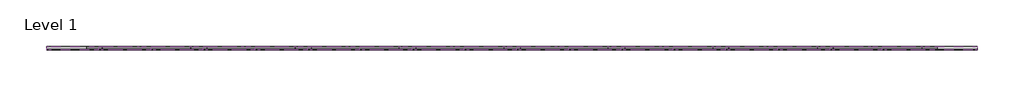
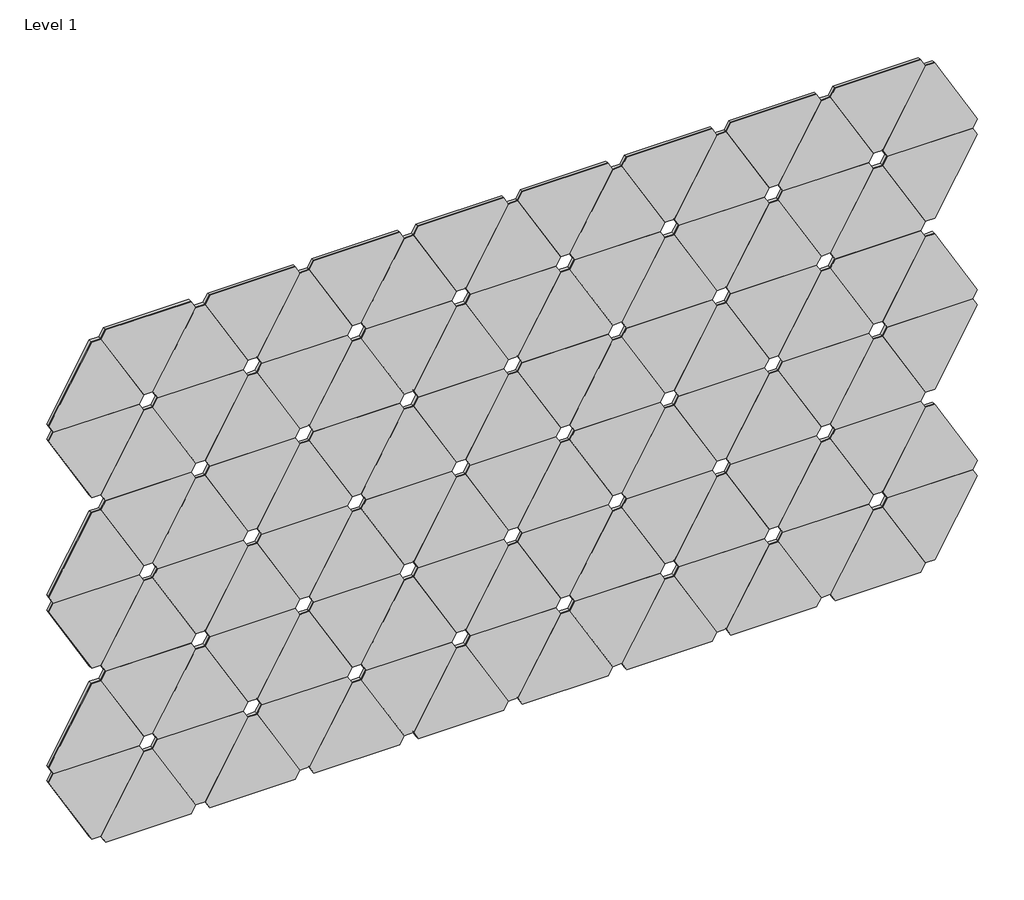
# One storey: 102 proxies.
"""IFC4 building model written with IfcOpenShell, lengths in millimetres."""

from ifc_helpers import new_model, si_unit, origin, place, context, project, spatial, transform, mapped, element, save
from components import aro_block_1_febfece8

model = new_model("IFC4")

# Units and contexts
model_context = context("Model", 3, world=origin())
ifc_project = project(units=[si_unit("LENGTHUNIT", "METRE", prefix="MILLI")], contexts=[model_context])

# Site, building, storey
site = spatial("IfcSite", under=ifc_project)
building = spatial("IfcBuilding", under=site)
storey = spatial("IfcBuildingStorey", under=building, Name="Level 1", Elevation=0.0)

# Proxies
placement = place(None, origin())
aro_block_1_shape = aro_block_1_febfece8(model_context)
element("IfcBuildingElementProxy", 1, Name="FilzFelt_ARO_Block 1 : ARO Block 1", ObjectType="FilzFelt_ARO_Block 1 : ARO Block 1", at=placement, inside=storey, context=model_context, shape_type="MappedRepresentation", body=[
    mapped(aro_block_1_shape, transform((-13829.1652095, 3946.8352795, 1042.1905508), x_axis=(1.0, 0.0, 0.0), y_axis=(0.0, 0.0, 1.0), z_axis=(0.0, -1.0, 0.0))),
])
element("IfcBuildingElementProxy", 2, Name="FilzFelt_ARO_Block 1 : ARO Block 1", ObjectType="FilzFelt_ARO_Block 1 : ARO Block 1", at=placement, inside=storey, context=model_context, shape_type="MappedRepresentation", body=[
    mapped(aro_block_1_shape, transform((-13473.5652095, 3946.8352795, 1042.1905508), x_axis=(1.0, 0.0, 0.0), y_axis=(0.0, 0.0, 1.0), z_axis=(0.0, -1.0, 0.0))),
])
element("IfcBuildingElementProxy", 3, Name="FilzFelt_ARO_Block 1 : ARO Block 1", ObjectType="FilzFelt_ARO_Block 1 : ARO Block 1", at=placement, inside=storey, context=model_context, shape_type="MappedRepresentation", body=[
    mapped(aro_block_1_shape, transform((-13651.3652095, 3946.8352795, 734.2319173), x_axis=(1.0, 0.0, 0.0), y_axis=(0.0, 0.0, 1.0), z_axis=(0.0, -1.0, 0.0))),
])
element("IfcBuildingElementProxy", 4, Name="FilzFelt_ARO_Block 1 : ARO Block 1", ObjectType="FilzFelt_ARO_Block 1 : ARO Block 1", at=placement, inside=storey, context=model_context, shape_type="MappedRepresentation", body=[
    mapped(aro_block_1_shape, transform((-13829.1652095, 3946.8352795, 1658.107818), x_axis=(1.0, 0.0, 0.0), y_axis=(0.0, 0.0, 1.0), z_axis=(0.0, -1.0, 0.0))),
])
element("IfcBuildingElementProxy", 5, Name="FilzFelt_ARO_Block 1 : ARO Block 1", ObjectType="FilzFelt_ARO_Block 1 : ARO Block 1", at=placement, inside=storey, context=model_context, shape_type="MappedRepresentation", body=[
    mapped(aro_block_1_shape, transform((-13651.3652095, 3946.8352795, 1760.7606959), x_axis=(-1.0, 0.0, 0.0), y_axis=(0.0, 0.0, -1.0), z_axis=(0.0, -1.0, 0.0))),
])
element("IfcBuildingElementProxy", 6, Name="FilzFelt_ARO_Block 1 : ARO Block 1", ObjectType="FilzFelt_ARO_Block 1 : ARO Block 1", at=placement, inside=storey, context=model_context, shape_type="MappedRepresentation", body=[
    mapped(aro_block_1_shape, transform((-13473.5652095, 3946.8352795, 1452.8020623), x_axis=(-1.0, 0.0, 0.0), y_axis=(0.0, 0.0, -1.0), z_axis=(0.0, -1.0, 0.0))),
])
element("IfcBuildingElementProxy", 7, Name="FilzFelt_ARO_Block 1 : ARO Block 1", ObjectType="FilzFelt_ARO_Block 1 : ARO Block 1", at=placement, inside=storey, context=model_context, shape_type="MappedRepresentation", body=[
    mapped(aro_block_1_shape, transform((-13651.3652095, 3946.8352795, 1350.1491844), x_axis=(1.0, 0.0, 0.0), y_axis=(0.0, 0.0, 1.0), z_axis=(0.0, -1.0, 0.0))),
])
element("IfcBuildingElementProxy", 8, Name="FilzFelt_ARO_Block 1 : ARO Block 1", ObjectType="FilzFelt_ARO_Block 1 : ARO Block 1", at=placement, inside=storey, context=model_context, shape_type="MappedRepresentation", body=[
    mapped(aro_block_1_shape, transform((-13651.3652095, 3946.8352795, 2376.6779631), x_axis=(-1.0, 0.0, 0.0), y_axis=(0.0, 0.0, -1.0), z_axis=(0.0, -1.0, 0.0))),
])
element("IfcBuildingElementProxy", 9, Name="FilzFelt_ARO_Block 1 : ARO Block 1", ObjectType="FilzFelt_ARO_Block 1 : ARO Block 1", at=placement, inside=storey, context=model_context, shape_type="MappedRepresentation", body=[
    mapped(aro_block_1_shape, transform((-13829.1652095, 3946.8352795, 2068.7193295), x_axis=(-1.0, 0.0, 0.0), y_axis=(0.0, 0.0, -1.0), z_axis=(0.0, -1.0, 0.0))),
])
element("IfcBuildingElementProxy", 10, Name="FilzFelt_ARO_Block 1 : ARO Block 1", ObjectType="FilzFelt_ARO_Block 1 : ARO Block 1", at=placement, inside=storey, context=model_context, shape_type="MappedRepresentation", body=[
    mapped(aro_block_1_shape, transform((-13473.5652095, 3946.8352795, 2068.7193295), x_axis=(-1.0, 0.0, 0.0), y_axis=(0.0, 0.0, -1.0), z_axis=(0.0, -1.0, 0.0))),
])
element("IfcBuildingElementProxy", 11, Name="FilzFelt_ARO_Block 1 : ARO Block 1", ObjectType="FilzFelt_ARO_Block 1 : ARO Block 1", at=placement, inside=storey, context=model_context, shape_type="MappedRepresentation", body=[
    mapped(aro_block_1_shape, transform((-13295.7652095, 3946.8352795, 1966.0664516), x_axis=(1.0, 0.0, 0.0), y_axis=(0.0, 0.0, 1.0), z_axis=(0.0, -1.0, 0.0))),
])
element("IfcBuildingElementProxy", 12, Name="FilzFelt_ARO_Block 1 : ARO Block 1", ObjectType="FilzFelt_ARO_Block 1 : ARO Block 1", at=placement, inside=storey, context=model_context, shape_type="MappedRepresentation", body=[
    mapped(aro_block_1_shape, transform((-13295.7652095, 3946.8352795, 734.2319173), x_axis=(1.0, 0.0, 0.0), y_axis=(0.0, 0.0, 1.0), z_axis=(0.0, -1.0, 0.0))),
])
element("IfcBuildingElementProxy", 13, Name="FilzFelt_ARO_Block 1 : ARO Block 1", ObjectType="FilzFelt_ARO_Block 1 : ARO Block 1", at=placement, inside=storey, context=model_context, shape_type="MappedRepresentation", body=[
    mapped(aro_block_1_shape, transform((-13295.7652095, 3946.8352795, 1144.8434287), x_axis=(-1.0, 0.0, 0.0), y_axis=(0.0, 0.0, -1.0), z_axis=(0.0, -1.0, 0.0))),
])
element("IfcBuildingElementProxy", 14, Name="FilzFelt_ARO_Block 1 : ARO Block 1", ObjectType="FilzFelt_ARO_Block 1 : ARO Block 1", at=placement, inside=storey, context=model_context, shape_type="MappedRepresentation", body=[
    mapped(aro_block_1_shape, transform((-13295.7652095, 3946.8352795, 1760.7606959), x_axis=(-1.0, 0.0, 0.0), y_axis=(0.0, 0.0, -1.0), z_axis=(0.0, -1.0, 0.0))),
])
element("IfcBuildingElementProxy", 15, Name="FilzFelt_ARO_Block 1 : ARO Block 1", ObjectType="FilzFelt_ARO_Block 1 : ARO Block 1", at=placement, inside=storey, context=model_context, shape_type="MappedRepresentation", body=[
    mapped(aro_block_1_shape, transform((-13295.7652095, 3946.8352795, 2376.6779631), x_axis=(-1.0, 0.0, 0.0), y_axis=(0.0, 0.0, -1.0), z_axis=(0.0, -1.0, 0.0))),
])
element("IfcBuildingElementProxy", 16, Name="FilzFelt_ARO_Block 1 : ARO Block 1", ObjectType="FilzFelt_ARO_Block 1 : ARO Block 1", at=placement, inside=storey, context=model_context, shape_type="MappedRepresentation", body=[
    mapped(aro_block_1_shape, transform((-12940.1652095, 3946.8352795, 1144.8434287), x_axis=(-1.0, 0.0, 0.0), y_axis=(0.0, 0.0, -1.0), z_axis=(0.0, -1.0, 0.0))),
])
element("IfcBuildingElementProxy", 17, Name="FilzFelt_ARO_Block 1 : ARO Block 1", ObjectType="FilzFelt_ARO_Block 1 : ARO Block 1", at=placement, inside=storey, context=model_context, shape_type="MappedRepresentation", body=[
    mapped(aro_block_1_shape, transform((-13117.9652095, 3946.8352795, 836.8847951), x_axis=(-1.0, 0.0, 0.0), y_axis=(0.0, 0.0, -1.0), z_axis=(0.0, -1.0, 0.0))),
])
element("IfcBuildingElementProxy", 18, Name="FilzFelt_ARO_Block 1 : ARO Block 1", ObjectType="FilzFelt_ARO_Block 1 : ARO Block 1", at=placement, inside=storey, context=model_context, shape_type="MappedRepresentation", body=[
    mapped(aro_block_1_shape, transform((-12762.3652095, 3946.8352795, 836.8847951), x_axis=(-1.0, 0.0, 0.0), y_axis=(0.0, 0.0, -1.0), z_axis=(0.0, -1.0, 0.0))),
])
element("IfcBuildingElementProxy", 19, Name="FilzFelt_ARO_Block 1 : ARO Block 1", ObjectType="FilzFelt_ARO_Block 1 : ARO Block 1", at=placement, inside=storey, context=model_context, shape_type="MappedRepresentation", body=[
    mapped(aro_block_1_shape, transform((-12762.3652095, 3946.8352795, 1658.107818), x_axis=(1.0, 0.0, 0.0), y_axis=(0.0, 0.0, 1.0), z_axis=(0.0, -1.0, 0.0))),
])
element("IfcBuildingElementProxy", 20, Name="FilzFelt_ARO_Block 1 : ARO Block 1", ObjectType="FilzFelt_ARO_Block 1 : ARO Block 1", at=placement, inside=storey, context=model_context, shape_type="MappedRepresentation", body=[
    mapped(aro_block_1_shape, transform((-12940.1652095, 3946.8352795, 1760.7606959), x_axis=(-1.0, 0.0, 0.0), y_axis=(0.0, 0.0, -1.0), z_axis=(0.0, -1.0, 0.0))),
])
element("IfcBuildingElementProxy", 21, Name="FilzFelt_ARO_Block 1 : ARO Block 1", ObjectType="FilzFelt_ARO_Block 1 : ARO Block 1", at=placement, inside=storey, context=model_context, shape_type="MappedRepresentation", body=[
    mapped(aro_block_1_shape, transform((-13117.9652095, 3946.8352795, 1452.8020623), x_axis=(-1.0, 0.0, 0.0), y_axis=(0.0, 0.0, -1.0), z_axis=(0.0, -1.0, 0.0))),
])
element("IfcBuildingElementProxy", 22, Name="FilzFelt_ARO_Block 1 : ARO Block 1", ObjectType="FilzFelt_ARO_Block 1 : ARO Block 1", at=placement, inside=storey, context=model_context, shape_type="MappedRepresentation", body=[
    mapped(aro_block_1_shape, transform((-12940.1652095, 3946.8352795, 1350.1491844), x_axis=(1.0, 0.0, 0.0), y_axis=(0.0, 0.0, 1.0), z_axis=(0.0, -1.0, 0.0))),
])
element("IfcBuildingElementProxy", 23, Name="FilzFelt_ARO_Block 1 : ARO Block 1", ObjectType="FilzFelt_ARO_Block 1 : ARO Block 1", at=placement, inside=storey, context=model_context, shape_type="MappedRepresentation", body=[
    mapped(aro_block_1_shape, transform((-13117.9652095, 3946.8352795, 2274.0250852), x_axis=(1.0, 0.0, 0.0), y_axis=(0.0, 0.0, 1.0), z_axis=(0.0, -1.0, 0.0))),
])
element("IfcBuildingElementProxy", 24, Name="FilzFelt_ARO_Block 1 : ARO Block 1", ObjectType="FilzFelt_ARO_Block 1 : ARO Block 1", at=placement, inside=storey, context=model_context, shape_type="MappedRepresentation", body=[
    mapped(aro_block_1_shape, transform((-12762.3652095, 3946.8352795, 2274.0250852), x_axis=(1.0, 0.0, 0.0), y_axis=(0.0, 0.0, 1.0), z_axis=(0.0, -1.0, 0.0))),
])
element("IfcBuildingElementProxy", 25, Name="FilzFelt_ARO_Block 1 : ARO Block 1", ObjectType="FilzFelt_ARO_Block 1 : ARO Block 1", at=placement, inside=storey, context=model_context, shape_type="MappedRepresentation", body=[
    mapped(aro_block_1_shape, transform((-12940.1652095, 3946.8352795, 1966.0664516), x_axis=(1.0, 0.0, 0.0), y_axis=(0.0, 0.0, 1.0), z_axis=(0.0, -1.0, 0.0))),
])
element("IfcBuildingElementProxy", 26, Name="FilzFelt_ARO_Block 1 : ARO Block 1", ObjectType="FilzFelt_ARO_Block 1 : ARO Block 1", at=placement, inside=storey, context=model_context, shape_type="MappedRepresentation", body=[
    mapped(aro_block_1_shape, transform((-12584.5652095, 3946.8352795, 1966.0664516), x_axis=(1.0, 0.0, 0.0), y_axis=(0.0, 0.0, 1.0), z_axis=(0.0, -1.0, 0.0))),
])
element("IfcBuildingElementProxy", 27, Name="FilzFelt_ARO_Block 1 : ARO Block 1", ObjectType="FilzFelt_ARO_Block 1 : ARO Block 1", at=placement, inside=storey, context=model_context, shape_type="MappedRepresentation", body=[
    mapped(aro_block_1_shape, transform((-12584.5652095, 3946.8352795, 1350.1491844), x_axis=(1.0, 0.0, 0.0), y_axis=(0.0, 0.0, 1.0), z_axis=(0.0, -1.0, 0.0))),
])
element("IfcBuildingElementProxy", 28, Name="FilzFelt_ARO_Block 1 : ARO Block 1", ObjectType="FilzFelt_ARO_Block 1 : ARO Block 1", at=placement, inside=storey, context=model_context, shape_type="MappedRepresentation", body=[
    mapped(aro_block_1_shape, transform((-12584.5652095, 3946.8352795, 734.2319173), x_axis=(1.0, 0.0, 0.0), y_axis=(0.0, 0.0, 1.0), z_axis=(0.0, -1.0, 0.0))),
])
element("IfcBuildingElementProxy", 29, Name="FilzFelt_ARO_Block 1 : ARO Block 1", ObjectType="FilzFelt_ARO_Block 1 : ARO Block 1", at=placement, inside=storey, context=model_context, shape_type="MappedRepresentation", body=[
    mapped(aro_block_1_shape, transform((-12584.5652095, 3946.8352795, 1144.8434287), x_axis=(-1.0, 0.0, 0.0), y_axis=(0.0, 0.0, -1.0), z_axis=(0.0, -1.0, 0.0))),
])
element("IfcBuildingElementProxy", 30, Name="FilzFelt_ARO_Block 1 : ARO Block 1", ObjectType="FilzFelt_ARO_Block 1 : ARO Block 1", at=placement, inside=storey, context=model_context, shape_type="MappedRepresentation", body=[
    mapped(aro_block_1_shape, transform((-12584.5652095, 3946.8352795, 2376.6779631), x_axis=(-1.0, 0.0, 0.0), y_axis=(0.0, 0.0, -1.0), z_axis=(0.0, -1.0, 0.0))),
])
element("IfcBuildingElementProxy", 31, Name="FilzFelt_ARO_Block 1 : ARO Block 1", ObjectType="FilzFelt_ARO_Block 1 : ARO Block 1", at=placement, inside=storey, context=model_context, shape_type="MappedRepresentation", body=[
    mapped(aro_block_1_shape, transform((-12406.7652095, 3946.8352795, 1042.1905508), x_axis=(1.0, 0.0, 0.0), y_axis=(0.0, 0.0, 1.0), z_axis=(0.0, -1.0, 0.0))),
])
element("IfcBuildingElementProxy", 32, Name="FilzFelt_ARO_Block 1 : ARO Block 1", ObjectType="FilzFelt_ARO_Block 1 : ARO Block 1", at=placement, inside=storey, context=model_context, shape_type="MappedRepresentation", body=[
    mapped(aro_block_1_shape, transform((-12051.1652095, 3946.8352795, 1042.1905508), x_axis=(1.0, 0.0, 0.0), y_axis=(0.0, 0.0, 1.0), z_axis=(0.0, -1.0, 0.0))),
])
element("IfcBuildingElementProxy", 33, Name="FilzFelt_ARO_Block 1 : ARO Block 1", ObjectType="FilzFelt_ARO_Block 1 : ARO Block 1", at=placement, inside=storey, context=model_context, shape_type="MappedRepresentation", body=[
    mapped(aro_block_1_shape, transform((-12228.9652095, 3946.8352795, 734.2319173), x_axis=(1.0, 0.0, 0.0), y_axis=(0.0, 0.0, 1.0), z_axis=(0.0, -1.0, 0.0))),
])
element("IfcBuildingElementProxy", 34, Name="FilzFelt_ARO_Block 1 : ARO Block 1", ObjectType="FilzFelt_ARO_Block 1 : ARO Block 1", at=placement, inside=storey, context=model_context, shape_type="MappedRepresentation", body=[
    mapped(aro_block_1_shape, transform((-12406.7652095, 3946.8352795, 1658.107818), x_axis=(1.0, 0.0, 0.0), y_axis=(0.0, 0.0, 1.0), z_axis=(0.0, -1.0, 0.0))),
])
element("IfcBuildingElementProxy", 35, Name="FilzFelt_ARO_Block 1 : ARO Block 1", ObjectType="FilzFelt_ARO_Block 1 : ARO Block 1", at=placement, inside=storey, context=model_context, shape_type="MappedRepresentation", body=[
    mapped(aro_block_1_shape, transform((-12228.9652095, 3946.8352795, 1760.7606959), x_axis=(-1.0, 0.0, 0.0), y_axis=(0.0, 0.0, -1.0), z_axis=(0.0, -1.0, 0.0))),
])
element("IfcBuildingElementProxy", 36, Name="FilzFelt_ARO_Block 1 : ARO Block 1", ObjectType="FilzFelt_ARO_Block 1 : ARO Block 1", at=placement, inside=storey, context=model_context, shape_type="MappedRepresentation", body=[
    mapped(aro_block_1_shape, transform((-12051.1652095, 3946.8352795, 1452.8020623), x_axis=(-1.0, 0.0, 0.0), y_axis=(0.0, 0.0, -1.0), z_axis=(0.0, -1.0, 0.0))),
])
element("IfcBuildingElementProxy", 37, Name="FilzFelt_ARO_Block 1 : ARO Block 1", ObjectType="FilzFelt_ARO_Block 1 : ARO Block 1", at=placement, inside=storey, context=model_context, shape_type="MappedRepresentation", body=[
    mapped(aro_block_1_shape, transform((-12228.9652095, 3946.8352795, 1350.1491844), x_axis=(1.0, 0.0, 0.0), y_axis=(0.0, 0.0, 1.0), z_axis=(0.0, -1.0, 0.0))),
])
element("IfcBuildingElementProxy", 38, Name="FilzFelt_ARO_Block 1 : ARO Block 1", ObjectType="FilzFelt_ARO_Block 1 : ARO Block 1", at=placement, inside=storey, context=model_context, shape_type="MappedRepresentation", body=[
    mapped(aro_block_1_shape, transform((-12228.9652095, 3946.8352795, 2376.6779631), x_axis=(-1.0, 0.0, 0.0), y_axis=(0.0, 0.0, -1.0), z_axis=(0.0, -1.0, 0.0))),
])
element("IfcBuildingElementProxy", 39, Name="FilzFelt_ARO_Block 1 : ARO Block 1", ObjectType="FilzFelt_ARO_Block 1 : ARO Block 1", at=placement, inside=storey, context=model_context, shape_type="MappedRepresentation", body=[
    mapped(aro_block_1_shape, transform((-12406.7652095, 3946.8352795, 2068.7193295), x_axis=(-1.0, 0.0, 0.0), y_axis=(0.0, 0.0, -1.0), z_axis=(0.0, -1.0, 0.0))),
])
element("IfcBuildingElementProxy", 40, Name="FilzFelt_ARO_Block 1 : ARO Block 1", ObjectType="FilzFelt_ARO_Block 1 : ARO Block 1", at=placement, inside=storey, context=model_context, shape_type="MappedRepresentation", body=[
    mapped(aro_block_1_shape, transform((-12051.1652095, 3946.8352795, 2068.7193295), x_axis=(-1.0, 0.0, 0.0), y_axis=(0.0, 0.0, -1.0), z_axis=(0.0, -1.0, 0.0))),
])
element("IfcBuildingElementProxy", 41, Name="FilzFelt_ARO_Block 1 : ARO Block 1", ObjectType="FilzFelt_ARO_Block 1 : ARO Block 1", at=placement, inside=storey, context=model_context, shape_type="MappedRepresentation", body=[
    mapped(aro_block_1_shape, transform((-11873.3652095, 3946.8352795, 1966.0664516), x_axis=(1.0, 0.0, 0.0), y_axis=(0.0, 0.0, 1.0), z_axis=(0.0, -1.0, 0.0))),
])
element("IfcBuildingElementProxy", 42, Name="FilzFelt_ARO_Block 1 : ARO Block 1", ObjectType="FilzFelt_ARO_Block 1 : ARO Block 1", at=placement, inside=storey, context=model_context, shape_type="MappedRepresentation", body=[
    mapped(aro_block_1_shape, transform((-11873.3652095, 3946.8352795, 734.2319173), x_axis=(1.0, 0.0, 0.0), y_axis=(0.0, 0.0, 1.0), z_axis=(0.0, -1.0, 0.0))),
])
element("IfcBuildingElementProxy", 43, Name="FilzFelt_ARO_Block 1 : ARO Block 1", ObjectType="FilzFelt_ARO_Block 1 : ARO Block 1", at=placement, inside=storey, context=model_context, shape_type="MappedRepresentation", body=[
    mapped(aro_block_1_shape, transform((-11873.3652095, 3946.8352795, 1144.8434287), x_axis=(-1.0, 0.0, 0.0), y_axis=(0.0, 0.0, -1.0), z_axis=(0.0, -1.0, 0.0))),
])
element("IfcBuildingElementProxy", 44, Name="FilzFelt_ARO_Block 1 : ARO Block 1", ObjectType="FilzFelt_ARO_Block 1 : ARO Block 1", at=placement, inside=storey, context=model_context, shape_type="MappedRepresentation", body=[
    mapped(aro_block_1_shape, transform((-11873.3652095, 3946.8352795, 1760.7606959), x_axis=(-1.0, 0.0, 0.0), y_axis=(0.0, 0.0, -1.0), z_axis=(0.0, -1.0, 0.0))),
])
element("IfcBuildingElementProxy", 45, Name="FilzFelt_ARO_Block 1 : ARO Block 1", ObjectType="FilzFelt_ARO_Block 1 : ARO Block 1", at=placement, inside=storey, context=model_context, shape_type="MappedRepresentation", body=[
    mapped(aro_block_1_shape, transform((-11873.3652095, 3946.8352795, 2376.6779631), x_axis=(-1.0, 0.0, 0.0), y_axis=(0.0, 0.0, -1.0), z_axis=(0.0, -1.0, 0.0))),
])
element("IfcBuildingElementProxy", 46, Name="FilzFelt_ARO_Block 1 : ARO Block 1", ObjectType="FilzFelt_ARO_Block 1 : ARO Block 1", at=placement, inside=storey, context=model_context, shape_type="MappedRepresentation", body=[
    mapped(aro_block_1_shape, transform((-11695.5652095, 3946.8352795, 836.8847951), x_axis=(-1.0, 0.0, 0.0), y_axis=(0.0, 0.0, -1.0), z_axis=(0.0, -1.0, 0.0))),
])
element("IfcBuildingElementProxy", 47, Name="FilzFelt_ARO_Block 1 : ARO Block 1", ObjectType="FilzFelt_ARO_Block 1 : ARO Block 1", at=placement, inside=storey, context=model_context, shape_type="MappedRepresentation", body=[
    mapped(aro_block_1_shape, transform((-11695.5652095, 3946.8352795, 1452.8020623), x_axis=(-1.0, 0.0, 0.0), y_axis=(0.0, 0.0, -1.0), z_axis=(0.0, -1.0, 0.0))),
])
element("IfcBuildingElementProxy", 48, Name="FilzFelt_ARO_Block 1 : ARO Block 1", ObjectType="FilzFelt_ARO_Block 1 : ARO Block 1", at=placement, inside=storey, context=model_context, shape_type="MappedRepresentation", body=[
    mapped(aro_block_1_shape, transform((-11695.5652095, 3946.8352795, 2274.0250852), x_axis=(1.0, 0.0, 0.0), y_axis=(0.0, 0.0, 1.0), z_axis=(0.0, -1.0, 0.0))),
])
element("IfcBuildingElementProxy", 49, Name="FilzFelt_ARO_Block 1 : ARO Block 1", ObjectType="FilzFelt_ARO_Block 1 : ARO Block 1", at=placement, inside=storey, context=model_context, shape_type="MappedRepresentation", body=[
    mapped(aro_block_1_shape, transform((-11517.7652095, 3946.8352795, 1966.0664516), x_axis=(1.0, 0.0, 0.0), y_axis=(0.0, 0.0, 1.0), z_axis=(0.0, -1.0, 0.0))),
])
element("IfcBuildingElementProxy", 50, Name="FilzFelt_ARO_Block 1 : ARO Block 1", ObjectType="FilzFelt_ARO_Block 1 : ARO Block 1", at=placement, inside=storey, context=model_context, shape_type="MappedRepresentation", body=[
    mapped(aro_block_1_shape, transform((-11517.7652095, 3946.8352795, 1350.1491844), x_axis=(1.0, 0.0, 0.0), y_axis=(0.0, 0.0, 1.0), z_axis=(0.0, -1.0, 0.0))),
])
element("IfcBuildingElementProxy", 51, Name="FilzFelt_ARO_Block 1 : ARO Block 1", ObjectType="FilzFelt_ARO_Block 1 : ARO Block 1", at=placement, inside=storey, context=model_context, shape_type="MappedRepresentation", body=[
    mapped(aro_block_1_shape, transform((-11517.7652095, 3946.8352795, 1144.8434287), x_axis=(-1.0, 0.0, 0.0), y_axis=(0.0, 0.0, -1.0), z_axis=(0.0, -1.0, 0.0))),
])
element("IfcBuildingElementProxy", 52, Name="FilzFelt_ARO_Block 1 : ARO Block 1", ObjectType="FilzFelt_ARO_Block 1 : ARO Block 1", at=placement, inside=storey, context=model_context, shape_type="MappedRepresentation", body=[
    mapped(aro_block_1_shape, transform((-11517.7652095, 3946.8352795, 1760.7606959), x_axis=(-1.0, 0.0, 0.0), y_axis=(0.0, 0.0, -1.0), z_axis=(0.0, -1.0, 0.0))),
])
element("IfcBuildingElementProxy", 53, Name="FilzFelt_ARO_Block 1 : ARO Block 1", ObjectType="FilzFelt_ARO_Block 1 : ARO Block 1", at=placement, inside=storey, context=model_context, shape_type="MappedRepresentation", body=[
    mapped(aro_block_1_shape, transform((-11162.1652095, 3946.8352795, 1144.8434287), x_axis=(-1.0, 0.0, 0.0), y_axis=(0.0, 0.0, -1.0), z_axis=(0.0, -1.0, 0.0))),
])
element("IfcBuildingElementProxy", 54, Name="FilzFelt_ARO_Block 1 : ARO Block 1", ObjectType="FilzFelt_ARO_Block 1 : ARO Block 1", at=placement, inside=storey, context=model_context, shape_type="MappedRepresentation", body=[
    mapped(aro_block_1_shape, transform((-11339.9652095, 3946.8352795, 836.8847951), x_axis=(-1.0, 0.0, 0.0), y_axis=(0.0, 0.0, -1.0), z_axis=(0.0, -1.0, 0.0))),
])
element("IfcBuildingElementProxy", 55, Name="FilzFelt_ARO_Block 1 : ARO Block 1", ObjectType="FilzFelt_ARO_Block 1 : ARO Block 1", at=placement, inside=storey, context=model_context, shape_type="MappedRepresentation", body=[
    mapped(aro_block_1_shape, transform((-11162.1652095, 3946.8352795, 734.2319173), x_axis=(1.0, 0.0, 0.0), y_axis=(0.0, 0.0, 1.0), z_axis=(0.0, -1.0, 0.0))),
])
element("IfcBuildingElementProxy", 56, Name="FilzFelt_ARO_Block 1 : ARO Block 1", ObjectType="FilzFelt_ARO_Block 1 : ARO Block 1", at=placement, inside=storey, context=model_context, shape_type="MappedRepresentation", body=[
    mapped(aro_block_1_shape, transform((-11339.9652095, 3946.8352795, 1658.107818), x_axis=(1.0, 0.0, 0.0), y_axis=(0.0, 0.0, 1.0), z_axis=(0.0, -1.0, 0.0))),
])
element("IfcBuildingElementProxy", 57, Name="FilzFelt_ARO_Block 1 : ARO Block 1", ObjectType="FilzFelt_ARO_Block 1 : ARO Block 1", at=placement, inside=storey, context=model_context, shape_type="MappedRepresentation", body=[
    mapped(aro_block_1_shape, transform((-11162.1652095, 3946.8352795, 1350.1491844), x_axis=(1.0, 0.0, 0.0), y_axis=(0.0, 0.0, 1.0), z_axis=(0.0, -1.0, 0.0))),
])
element("IfcBuildingElementProxy", 58, Name="FilzFelt_ARO_Block 1 : ARO Block 1", ObjectType="FilzFelt_ARO_Block 1 : ARO Block 1", at=placement, inside=storey, context=model_context, shape_type="MappedRepresentation", body=[
    mapped(aro_block_1_shape, transform((-11339.9652095, 3946.8352795, 2274.0250852), x_axis=(1.0, 0.0, 0.0), y_axis=(0.0, 0.0, 1.0), z_axis=(0.0, -1.0, 0.0))),
])
element("IfcBuildingElementProxy", 59, Name="FilzFelt_ARO_Block 1 : ARO Block 1", ObjectType="FilzFelt_ARO_Block 1 : ARO Block 1", at=placement, inside=storey, context=model_context, shape_type="MappedRepresentation", body=[
    mapped(aro_block_1_shape, transform((-11162.1652095, 3946.8352795, 2376.6779631), x_axis=(-1.0, 0.0, 0.0), y_axis=(0.0, 0.0, -1.0), z_axis=(0.0, -1.0, 0.0))),
])
element("IfcBuildingElementProxy", 60, Name="FilzFelt_ARO_Block 1 : ARO Block 1", ObjectType="FilzFelt_ARO_Block 1 : ARO Block 1", at=placement, inside=storey, context=model_context, shape_type="MappedRepresentation", body=[
    mapped(aro_block_1_shape, transform((-11162.1652095, 3946.8352795, 1966.0664516), x_axis=(1.0, 0.0, 0.0), y_axis=(0.0, 0.0, 1.0), z_axis=(0.0, -1.0, 0.0))),
])
element("IfcBuildingElementProxy", 61, Name="FilzFelt_ARO_Block 1 : ARO Block 1", ObjectType="FilzFelt_ARO_Block 1 : ARO Block 1", at=placement, inside=storey, context=model_context, shape_type="MappedRepresentation", body=[
    mapped(aro_block_1_shape, transform((-10984.3652095, 3946.8352795, 2068.7193295), x_axis=(-1.0, 0.0, 0.0), y_axis=(0.0, 0.0, -1.0), z_axis=(0.0, -1.0, 0.0))),
])
element("IfcBuildingElementProxy", 62, Name="FilzFelt_ARO_Block 1 : ARO Block 1", ObjectType="FilzFelt_ARO_Block 1 : ARO Block 1", at=placement, inside=storey, context=model_context, shape_type="MappedRepresentation", body=[
    mapped(aro_block_1_shape, transform((-10984.3652095, 3946.8352795, 1658.107818), x_axis=(1.0, 0.0, 0.0), y_axis=(0.0, 0.0, 1.0), z_axis=(0.0, -1.0, 0.0))),
])
element("IfcBuildingElementProxy", 63, Name="FilzFelt_ARO_Block 1 : ARO Block 1", ObjectType="FilzFelt_ARO_Block 1 : ARO Block 1", at=placement, inside=storey, context=model_context, shape_type="MappedRepresentation", body=[
    mapped(aro_block_1_shape, transform((-10984.3652095, 3946.8352795, 1042.1905508), x_axis=(1.0, 0.0, 0.0), y_axis=(0.0, 0.0, 1.0), z_axis=(0.0, -1.0, 0.0))),
])
element("IfcBuildingElementProxy", 64, Name="FilzFelt_ARO_Block 1 : ARO Block 1", ObjectType="FilzFelt_ARO_Block 1 : ARO Block 1", at=placement, inside=storey, context=model_context, shape_type="MappedRepresentation", body=[
    mapped(aro_block_1_shape, transform((-13651.3652095, 3946.8352795, 1144.8434287), x_axis=(-1.0, 0.0, 0.0), y_axis=(0.0, 0.0, -1.0), z_axis=(0.0, -1.0, 0.0))),
])
element("IfcBuildingElementProxy", 65, Name="FilzFelt_ARO_Block 1 : ARO Block 1", ObjectType="FilzFelt_ARO_Block 1 : ARO Block 1", at=placement, inside=storey, context=model_context, shape_type="MappedRepresentation", body=[
    mapped(aro_block_1_shape, transform((-13829.1652095, 3946.8352795, 836.8847951), x_axis=(-1.0, 0.0, 0.0), y_axis=(0.0, 0.0, -1.0), z_axis=(0.0, -1.0, 0.0))),
])
element("IfcBuildingElementProxy", 66, Name="FilzFelt_ARO_Block 1 : ARO Block 1", ObjectType="FilzFelt_ARO_Block 1 : ARO Block 1", at=placement, inside=storey, context=model_context, shape_type="MappedRepresentation", body=[
    mapped(aro_block_1_shape, transform((-13473.5652095, 3946.8352795, 836.8847951), x_axis=(-1.0, 0.0, 0.0), y_axis=(0.0, 0.0, -1.0), z_axis=(0.0, -1.0, 0.0))),
])
element("IfcBuildingElementProxy", 67, Name="FilzFelt_ARO_Block 1 : ARO Block 1", ObjectType="FilzFelt_ARO_Block 1 : ARO Block 1", at=placement, inside=storey, context=model_context, shape_type="MappedRepresentation", body=[
    mapped(aro_block_1_shape, transform((-13473.5652095, 3946.8352795, 1658.107818), x_axis=(1.0, 0.0, 0.0), y_axis=(0.0, 0.0, 1.0), z_axis=(0.0, -1.0, 0.0))),
])
element("IfcBuildingElementProxy", 68, Name="FilzFelt_ARO_Block 1 : ARO Block 1", ObjectType="FilzFelt_ARO_Block 1 : ARO Block 1", at=placement, inside=storey, context=model_context, shape_type="MappedRepresentation", body=[
    mapped(aro_block_1_shape, transform((-13829.1652095, 3946.8352795, 1452.8020623), x_axis=(-1.0, 0.0, 0.0), y_axis=(0.0, 0.0, -1.0), z_axis=(0.0, -1.0, 0.0))),
])
element("IfcBuildingElementProxy", 69, Name="FilzFelt_ARO_Block 1 : ARO Block 1", ObjectType="FilzFelt_ARO_Block 1 : ARO Block 1", at=placement, inside=storey, context=model_context, shape_type="MappedRepresentation", body=[
    mapped(aro_block_1_shape, transform((-13829.1652095, 3946.8352795, 2274.0250852), x_axis=(1.0, 0.0, 0.0), y_axis=(0.0, 0.0, 1.0), z_axis=(0.0, -1.0, 0.0))),
])
element("IfcBuildingElementProxy", 70, Name="FilzFelt_ARO_Block 1 : ARO Block 1", ObjectType="FilzFelt_ARO_Block 1 : ARO Block 1", at=placement, inside=storey, context=model_context, shape_type="MappedRepresentation", body=[
    mapped(aro_block_1_shape, transform((-13473.5652095, 3946.8352795, 2274.0250852), x_axis=(1.0, 0.0, 0.0), y_axis=(0.0, 0.0, 1.0), z_axis=(0.0, -1.0, 0.0))),
])
element("IfcBuildingElementProxy", 71, Name="FilzFelt_ARO_Block 1 : ARO Block 1", ObjectType="FilzFelt_ARO_Block 1 : ARO Block 1", at=placement, inside=storey, context=model_context, shape_type="MappedRepresentation", body=[
    mapped(aro_block_1_shape, transform((-13651.3652095, 3946.8352795, 1966.0664516), x_axis=(1.0, 0.0, 0.0), y_axis=(0.0, 0.0, 1.0), z_axis=(0.0, -1.0, 0.0))),
])
element("IfcBuildingElementProxy", 72, Name="FilzFelt_ARO_Block 1 : ARO Block 1", ObjectType="FilzFelt_ARO_Block 1 : ARO Block 1", at=placement, inside=storey, context=model_context, shape_type="MappedRepresentation", body=[
    mapped(aro_block_1_shape, transform((-13295.7652095, 3946.8352795, 1350.1491844), x_axis=(1.0, 0.0, 0.0), y_axis=(0.0, 0.0, 1.0), z_axis=(0.0, -1.0, 0.0))),
])
element("IfcBuildingElementProxy", 73, Name="FilzFelt_ARO_Block 1 : ARO Block 1", ObjectType="FilzFelt_ARO_Block 1 : ARO Block 1", at=placement, inside=storey, context=model_context, shape_type="MappedRepresentation", body=[
    mapped(aro_block_1_shape, transform((-13117.9652095, 3946.8352795, 1042.1905508), x_axis=(1.0, 0.0, 0.0), y_axis=(0.0, 0.0, 1.0), z_axis=(0.0, -1.0, 0.0))),
])
element("IfcBuildingElementProxy", 74, Name="FilzFelt_ARO_Block 1 : ARO Block 1", ObjectType="FilzFelt_ARO_Block 1 : ARO Block 1", at=placement, inside=storey, context=model_context, shape_type="MappedRepresentation", body=[
    mapped(aro_block_1_shape, transform((-12762.3652095, 3946.8352795, 1042.1905508), x_axis=(1.0, 0.0, 0.0), y_axis=(0.0, 0.0, 1.0), z_axis=(0.0, -1.0, 0.0))),
])
element("IfcBuildingElementProxy", 75, Name="FilzFelt_ARO_Block 1 : ARO Block 1", ObjectType="FilzFelt_ARO_Block 1 : ARO Block 1", at=placement, inside=storey, context=model_context, shape_type="MappedRepresentation", body=[
    mapped(aro_block_1_shape, transform((-12940.1652095, 3946.8352795, 734.2319173), x_axis=(1.0, 0.0, 0.0), y_axis=(0.0, 0.0, 1.0), z_axis=(0.0, -1.0, 0.0))),
])
element("IfcBuildingElementProxy", 76, Name="FilzFelt_ARO_Block 1 : ARO Block 1", ObjectType="FilzFelt_ARO_Block 1 : ARO Block 1", at=placement, inside=storey, context=model_context, shape_type="MappedRepresentation", body=[
    mapped(aro_block_1_shape, transform((-13117.9652095, 3946.8352795, 1658.107818), x_axis=(1.0, 0.0, 0.0), y_axis=(0.0, 0.0, 1.0), z_axis=(0.0, -1.0, 0.0))),
])
element("IfcBuildingElementProxy", 77, Name="FilzFelt_ARO_Block 1 : ARO Block 1", ObjectType="FilzFelt_ARO_Block 1 : ARO Block 1", at=placement, inside=storey, context=model_context, shape_type="MappedRepresentation", body=[
    mapped(aro_block_1_shape, transform((-12762.3652095, 3946.8352795, 1452.8020623), x_axis=(-1.0, 0.0, 0.0), y_axis=(0.0, 0.0, -1.0), z_axis=(0.0, -1.0, 0.0))),
])
element("IfcBuildingElementProxy", 78, Name="FilzFelt_ARO_Block 1 : ARO Block 1", ObjectType="FilzFelt_ARO_Block 1 : ARO Block 1", at=placement, inside=storey, context=model_context, shape_type="MappedRepresentation", body=[
    mapped(aro_block_1_shape, transform((-12940.1652095, 3946.8352795, 2376.6779631), x_axis=(-1.0, 0.0, 0.0), y_axis=(0.0, 0.0, -1.0), z_axis=(0.0, -1.0, 0.0))),
])
element("IfcBuildingElementProxy", 79, Name="FilzFelt_ARO_Block 1 : ARO Block 1", ObjectType="FilzFelt_ARO_Block 1 : ARO Block 1", at=placement, inside=storey, context=model_context, shape_type="MappedRepresentation", body=[
    mapped(aro_block_1_shape, transform((-13117.9652095, 3946.8352795, 2068.7193295), x_axis=(-1.0, 0.0, 0.0), y_axis=(0.0, 0.0, -1.0), z_axis=(0.0, -1.0, 0.0))),
])
element("IfcBuildingElementProxy", 80, Name="FilzFelt_ARO_Block 1 : ARO Block 1", ObjectType="FilzFelt_ARO_Block 1 : ARO Block 1", at=placement, inside=storey, context=model_context, shape_type="MappedRepresentation", body=[
    mapped(aro_block_1_shape, transform((-12762.3652095, 3946.8352795, 2068.7193295), x_axis=(-1.0, 0.0, 0.0), y_axis=(0.0, 0.0, -1.0), z_axis=(0.0, -1.0, 0.0))),
])
element("IfcBuildingElementProxy", 81, Name="FilzFelt_ARO_Block 1 : ARO Block 1", ObjectType="FilzFelt_ARO_Block 1 : ARO Block 1", at=placement, inside=storey, context=model_context, shape_type="MappedRepresentation", body=[
    mapped(aro_block_1_shape, transform((-12584.5652095, 3946.8352795, 1760.7606959), x_axis=(-1.0, 0.0, 0.0), y_axis=(0.0, 0.0, -1.0), z_axis=(0.0, -1.0, 0.0))),
])
element("IfcBuildingElementProxy", 82, Name="FilzFelt_ARO_Block 1 : ARO Block 1", ObjectType="FilzFelt_ARO_Block 1 : ARO Block 1", at=placement, inside=storey, context=model_context, shape_type="MappedRepresentation", body=[
    mapped(aro_block_1_shape, transform((-12228.9652095, 3946.8352795, 1144.8434287), x_axis=(-1.0, 0.0, 0.0), y_axis=(0.0, 0.0, -1.0), z_axis=(0.0, -1.0, 0.0))),
])
element("IfcBuildingElementProxy", 83, Name="FilzFelt_ARO_Block 1 : ARO Block 1", ObjectType="FilzFelt_ARO_Block 1 : ARO Block 1", at=placement, inside=storey, context=model_context, shape_type="MappedRepresentation", body=[
    mapped(aro_block_1_shape, transform((-12406.7652095, 3946.8352795, 836.8847951), x_axis=(-1.0, 0.0, 0.0), y_axis=(0.0, 0.0, -1.0), z_axis=(0.0, -1.0, 0.0))),
])
element("IfcBuildingElementProxy", 84, Name="FilzFelt_ARO_Block 1 : ARO Block 1", ObjectType="FilzFelt_ARO_Block 1 : ARO Block 1", at=placement, inside=storey, context=model_context, shape_type="MappedRepresentation", body=[
    mapped(aro_block_1_shape, transform((-12051.1652095, 3946.8352795, 836.8847951), x_axis=(-1.0, 0.0, 0.0), y_axis=(0.0, 0.0, -1.0), z_axis=(0.0, -1.0, 0.0))),
])
element("IfcBuildingElementProxy", 85, Name="FilzFelt_ARO_Block 1 : ARO Block 1", ObjectType="FilzFelt_ARO_Block 1 : ARO Block 1", at=placement, inside=storey, context=model_context, shape_type="MappedRepresentation", body=[
    mapped(aro_block_1_shape, transform((-12051.1652095, 3946.8352795, 1658.107818), x_axis=(1.0, 0.0, 0.0), y_axis=(0.0, 0.0, 1.0), z_axis=(0.0, -1.0, 0.0))),
])
element("IfcBuildingElementProxy", 86, Name="FilzFelt_ARO_Block 1 : ARO Block 1", ObjectType="FilzFelt_ARO_Block 1 : ARO Block 1", at=placement, inside=storey, context=model_context, shape_type="MappedRepresentation", body=[
    mapped(aro_block_1_shape, transform((-12406.7652095, 3946.8352795, 1452.8020623), x_axis=(-1.0, 0.0, 0.0), y_axis=(0.0, 0.0, -1.0), z_axis=(0.0, -1.0, 0.0))),
])
element("IfcBuildingElementProxy", 87, Name="FilzFelt_ARO_Block 1 : ARO Block 1", ObjectType="FilzFelt_ARO_Block 1 : ARO Block 1", at=placement, inside=storey, context=model_context, shape_type="MappedRepresentation", body=[
    mapped(aro_block_1_shape, transform((-12406.7652095, 3946.8352795, 2274.0250852), x_axis=(1.0, 0.0, 0.0), y_axis=(0.0, 0.0, 1.0), z_axis=(0.0, -1.0, 0.0))),
])
element("IfcBuildingElementProxy", 88, Name="FilzFelt_ARO_Block 1 : ARO Block 1", ObjectType="FilzFelt_ARO_Block 1 : ARO Block 1", at=placement, inside=storey, context=model_context, shape_type="MappedRepresentation", body=[
    mapped(aro_block_1_shape, transform((-12051.1652095, 3946.8352795, 2274.0250852), x_axis=(1.0, 0.0, 0.0), y_axis=(0.0, 0.0, 1.0), z_axis=(0.0, -1.0, 0.0))),
])
element("IfcBuildingElementProxy", 89, Name="FilzFelt_ARO_Block 1 : ARO Block 1", ObjectType="FilzFelt_ARO_Block 1 : ARO Block 1", at=placement, inside=storey, context=model_context, shape_type="MappedRepresentation", body=[
    mapped(aro_block_1_shape, transform((-12228.9652095, 3946.8352795, 1966.0664516), x_axis=(1.0, 0.0, 0.0), y_axis=(0.0, 0.0, 1.0), z_axis=(0.0, -1.0, 0.0))),
])
element("IfcBuildingElementProxy", 90, Name="FilzFelt_ARO_Block 1 : ARO Block 1", ObjectType="FilzFelt_ARO_Block 1 : ARO Block 1", at=placement, inside=storey, context=model_context, shape_type="MappedRepresentation", body=[
    mapped(aro_block_1_shape, transform((-11873.3652095, 3946.8352795, 1350.1491844), x_axis=(1.0, 0.0, 0.0), y_axis=(0.0, 0.0, 1.0), z_axis=(0.0, -1.0, 0.0))),
])
element("IfcBuildingElementProxy", 91, Name="FilzFelt_ARO_Block 1 : ARO Block 1", ObjectType="FilzFelt_ARO_Block 1 : ARO Block 1", at=placement, inside=storey, context=model_context, shape_type="MappedRepresentation", body=[
    mapped(aro_block_1_shape, transform((-11695.5652095, 3946.8352795, 1042.1905508), x_axis=(1.0, 0.0, 0.0), y_axis=(0.0, 0.0, 1.0), z_axis=(0.0, -1.0, 0.0))),
])
element("IfcBuildingElementProxy", 92, Name="FilzFelt_ARO_Block 1 : ARO Block 1", ObjectType="FilzFelt_ARO_Block 1 : ARO Block 1", at=placement, inside=storey, context=model_context, shape_type="MappedRepresentation", body=[
    mapped(aro_block_1_shape, transform((-11695.5652095, 3946.8352795, 1658.107818), x_axis=(1.0, 0.0, 0.0), y_axis=(0.0, 0.0, 1.0), z_axis=(0.0, -1.0, 0.0))),
])
element("IfcBuildingElementProxy", 93, Name="FilzFelt_ARO_Block 1 : ARO Block 1", ObjectType="FilzFelt_ARO_Block 1 : ARO Block 1", at=placement, inside=storey, context=model_context, shape_type="MappedRepresentation", body=[
    mapped(aro_block_1_shape, transform((-11695.5652095, 3946.8352795, 2068.7193295), x_axis=(-1.0, 0.0, 0.0), y_axis=(0.0, 0.0, -1.0), z_axis=(0.0, -1.0, 0.0))),
])
element("IfcBuildingElementProxy", 94, Name="FilzFelt_ARO_Block 1 : ARO Block 1", ObjectType="FilzFelt_ARO_Block 1 : ARO Block 1", at=placement, inside=storey, context=model_context, shape_type="MappedRepresentation", body=[
    mapped(aro_block_1_shape, transform((-11517.7652095, 3946.8352795, 734.2319173), x_axis=(1.0, 0.0, 0.0), y_axis=(0.0, 0.0, 1.0), z_axis=(0.0, -1.0, 0.0))),
])
element("IfcBuildingElementProxy", 95, Name="FilzFelt_ARO_Block 1 : ARO Block 1", ObjectType="FilzFelt_ARO_Block 1 : ARO Block 1", at=placement, inside=storey, context=model_context, shape_type="MappedRepresentation", body=[
    mapped(aro_block_1_shape, transform((-11517.7652095, 3946.8352795, 2376.6779631), x_axis=(-1.0, 0.0, 0.0), y_axis=(0.0, 0.0, -1.0), z_axis=(0.0, -1.0, 0.0))),
])
element("IfcBuildingElementProxy", 96, Name="FilzFelt_ARO_Block 1 : ARO Block 1", ObjectType="FilzFelt_ARO_Block 1 : ARO Block 1", at=placement, inside=storey, context=model_context, shape_type="MappedRepresentation", body=[
    mapped(aro_block_1_shape, transform((-11339.9652095, 3946.8352795, 1042.1905508), x_axis=(1.0, 0.0, 0.0), y_axis=(0.0, 0.0, 1.0), z_axis=(0.0, -1.0, 0.0))),
])
element("IfcBuildingElementProxy", 97, Name="FilzFelt_ARO_Block 1 : ARO Block 1", ObjectType="FilzFelt_ARO_Block 1 : ARO Block 1", at=placement, inside=storey, context=model_context, shape_type="MappedRepresentation", body=[
    mapped(aro_block_1_shape, transform((-11162.1652095, 3946.8352795, 1760.7606959), x_axis=(-1.0, 0.0, 0.0), y_axis=(0.0, 0.0, -1.0), z_axis=(0.0, -1.0, 0.0))),
])
element("IfcBuildingElementProxy", 98, Name="FilzFelt_ARO_Block 1 : ARO Block 1", ObjectType="FilzFelt_ARO_Block 1 : ARO Block 1", at=placement, inside=storey, context=model_context, shape_type="MappedRepresentation", body=[
    mapped(aro_block_1_shape, transform((-11339.9652095, 3946.8352795, 1452.8020623), x_axis=(-1.0, 0.0, 0.0), y_axis=(0.0, 0.0, -1.0), z_axis=(0.0, -1.0, 0.0))),
])
element("IfcBuildingElementProxy", 99, Name="FilzFelt_ARO_Block 1 : ARO Block 1", ObjectType="FilzFelt_ARO_Block 1 : ARO Block 1", at=placement, inside=storey, context=model_context, shape_type="MappedRepresentation", body=[
    mapped(aro_block_1_shape, transform((-11339.9652095, 3946.8352795, 2068.7193295), x_axis=(-1.0, 0.0, 0.0), y_axis=(0.0, 0.0, -1.0), z_axis=(0.0, -1.0, 0.0))),
])
element("IfcBuildingElementProxy", 100, Name="FilzFelt_ARO_Block 1 : ARO Block 1", ObjectType="FilzFelt_ARO_Block 1 : ARO Block 1", at=placement, inside=storey, context=model_context, shape_type="MappedRepresentation", body=[
    mapped(aro_block_1_shape, transform((-10984.3652095, 3946.8352795, 2274.0250852), x_axis=(1.0, 0.0, 0.0), y_axis=(0.0, 0.0, 1.0), z_axis=(0.0, -1.0, 0.0))),
])
element("IfcBuildingElementProxy", 101, Name="FilzFelt_ARO_Block 1 : ARO Block 1", ObjectType="FilzFelt_ARO_Block 1 : ARO Block 1", at=placement, inside=storey, context=model_context, shape_type="MappedRepresentation", body=[
    mapped(aro_block_1_shape, transform((-10984.3652095, 3946.8352795, 1452.8020623), x_axis=(-1.0, 0.0, 0.0), y_axis=(0.0, 0.0, -1.0), z_axis=(0.0, -1.0, 0.0))),
])
element("IfcBuildingElementProxy", 102, Name="FilzFelt_ARO_Block 1 : ARO Block 1", ObjectType="FilzFelt_ARO_Block 1 : ARO Block 1", at=placement, inside=storey, context=model_context, shape_type="MappedRepresentation", body=[
    mapped(aro_block_1_shape, transform((-10984.3652095, 3946.8352795, 836.8847951), x_axis=(-1.0, 0.0, 0.0), y_axis=(0.0, 0.0, -1.0), z_axis=(0.0, -1.0, 0.0))),
])

save(model, "model.ifc")
